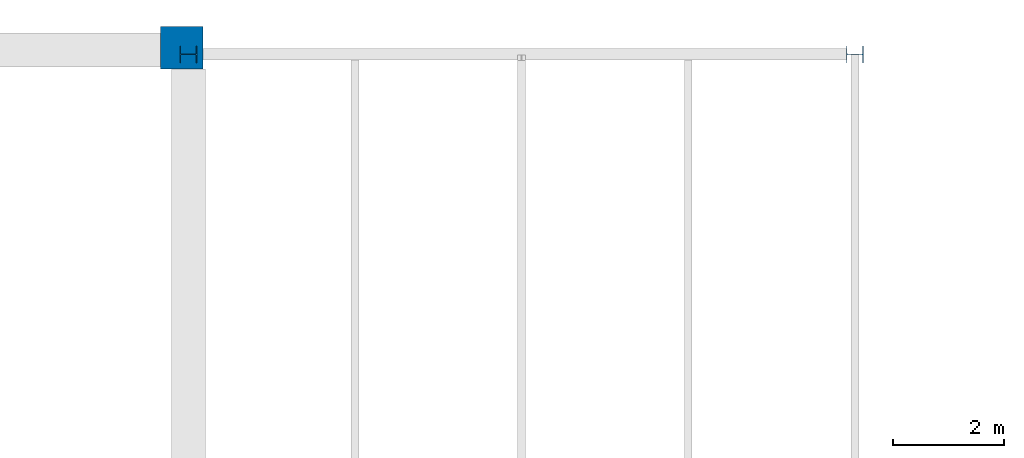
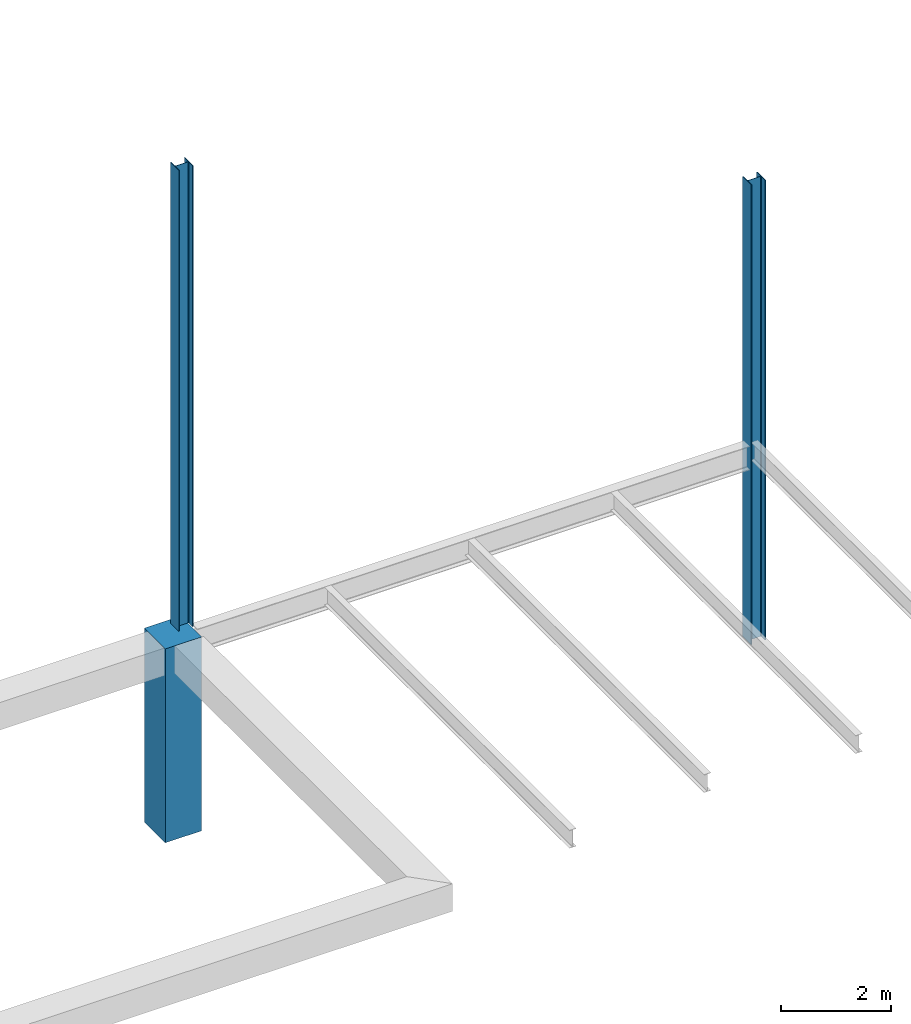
# One storey, part 8 of 19: 3 columns.
"""IFC2X3 building model written with IfcOpenShell, lengths in millimetres."""

from ifc_helpers import new_model, si_unit, origin, place, context, project, spatial, faceted_brep, material, element, save


model = new_model("IFC2X3")

# Units and contexts
context_of_model = context(None, 3, precision=1e-05, world=origin())
ifc_project = project(units=[si_unit("LENGTHUNIT", "METRE", prefix="MILLI")], contexts=[context_of_model])

# Building, storey
building = spatial("IfcBuilding", under=ifc_project, Name="Building", CompositionType="ELEMENT")
storey = spatial("IfcBuildingStorey", under=building, Name="FL2-FRM", CompositionType="ELEMENT")

# Columns
ifc_material_1 = material(Name="C5000")
column_1_placement = place(None, origin())
element("IfcColumn", 1, at=column_1_placement, inside=storey, material=ifc_material_1, Name="Column175", context=context_of_model, shape_type="Brep", body=[
    faceted_brep([(262.0, 35738.0, 0.0), (262.0, 36500.0, 0.0), (262.0, 36500.0, 4296.8), (262.0, 35738.0, 4296.8), (-500.0, 36500.0, 0.0), (-500.0, 36500.0, 4296.8), (-500.0, 35738.0, 0.0), (-500.0, 35738.0, 4296.8)], [[[0, 1, 2, 3]], [[1, 4, 5, 2]], [[4, 6, 7, 5]], [[6, 0, 3, 7]], [[0, 6, 4, 1]], [[3, 2, 5, 7]]]),
])
ifc_material_2 = material(Name="A992")
column_2_placement = place(None, origin())
element("IfcColumn", 2, at=column_2_placement, inside=storey, material=ifc_material_2, Name="Column571", context=context_of_model, shape_type="Brep", body=[
    faceted_brep([(154.0, 35847.5, 4500.0), (154.0, 36152.5, 4500.0), (154.0, 36152.5, 14719.2), (154.0, 35847.5, 14719.2), (138.6, 36152.5, 4500.0), (138.6, 36152.5, 14719.2), (138.6, 36020.1, 4500.0), (138.6, 36020.1, 14719.2), (138.082, 36016.2, 4500.0), (138.082, 36016.2, 14719.2), (136.564, 36012.5, 4500.0), (136.564, 36012.5, 14719.2), (134.148, 36009.4, 4500.0), (134.148, 36009.4, 14719.2), (131.0, 36007.0, 4500.0), (131.0, 36007.0, 14719.2), (127.334, 36005.5, 4500.0), (127.334, 36005.5, 14719.2), (123.4, 36004.9, 4500.0), (123.4, 36004.9, 14719.2), (-123.4, 36004.9, 4500.0), (-123.4, 36004.9, 14719.2), (-127.334, 36005.5, 4500.0), (-127.334, 36005.5, 14719.2), (-131.0, 36007.0, 4500.0), (-131.0, 36007.0, 14719.2), (-134.148, 36009.4, 4500.0), (-134.148, 36009.4, 14719.2), (-136.564, 36012.5, 4500.0), (-136.564, 36012.5, 14719.2), (-138.082, 36016.2, 4500.0), (-138.082, 36016.2, 14719.2), (-138.6, 36020.1, 4500.0), (-138.6, 36020.1, 14719.2), (-138.6, 36152.5, 4500.0), (-138.6, 36152.5, 14719.2), (-154.0, 36152.5, 4500.0), (-154.0, 36152.5, 14719.2), (-154.0, 35847.5, 4500.0), (-154.0, 35847.5, 14719.2), (-138.6, 35847.5, 4500.0), (-138.6, 35847.5, 14719.2), (-138.6, 35979.9, 4500.0), (-138.6, 35979.9, 14719.2), (-138.082, 35983.8, 4500.0), (-138.082, 35983.8, 14719.2), (-136.564, 35987.5, 4500.0), (-136.564, 35987.5, 14719.2), (-134.148, 35990.6, 4500.0), (-134.148, 35990.6, 14719.2), (-131.0, 35993.0, 4500.0), (-131.0, 35993.0, 14719.2), (-127.334, 35994.5, 4500.0), (-127.334, 35994.5, 14719.2), (-123.4, 35995.1, 4500.0), (-123.4, 35995.1, 14719.2), (123.4, 35995.1, 4500.0), (123.4, 35995.1, 14719.2), (127.334, 35994.5, 4500.0), (127.334, 35994.5, 14719.2), (131.0, 35993.0, 4500.0), (131.0, 35993.0, 14719.2), (134.148, 35990.6, 4500.0), (134.148, 35990.6, 14719.2), (136.564, 35987.5, 4500.0), (136.564, 35987.5, 14719.2), (138.082, 35983.8, 4500.0), (138.082, 35983.8, 14719.2), (138.6, 35979.9, 4500.0), (138.6, 35979.9, 14719.2), (138.6, 35847.5, 4500.0), (138.6, 35847.5, 14719.2)], [[[0, 1, 2, 3]], [[1, 4, 5, 2]], [[4, 6, 7, 5]], [[6, 8, 9, 7]], [[8, 10, 11, 9]], [[10, 12, 13, 11]], [[12, 14, 15, 13]], [[14, 16, 17, 15]], [[16, 18, 19, 17]], [[18, 20, 21, 19]], [[20, 22, 23, 21]], [[22, 24, 25, 23]], [[24, 26, 27, 25]], [[26, 28, 29, 27]], [[28, 30, 31, 29]], [[30, 32, 33, 31]], [[32, 34, 35, 33]], [[34, 36, 37, 35]], [[36, 38, 39, 37]], [[38, 40, 41, 39]], [[40, 42, 43, 41]], [[42, 44, 45, 43]], [[44, 46, 47, 45]], [[46, 48, 49, 47]], [[48, 50, 51, 49]], [[50, 52, 53, 51]], [[52, 54, 55, 53]], [[54, 56, 57, 55]], [[56, 58, 59, 57]], [[58, 60, 61, 59]], [[60, 62, 63, 61]], [[62, 64, 65, 63]], [[64, 66, 67, 65]], [[66, 68, 69, 67]], [[68, 70, 71, 69]], [[70, 0, 3, 71]], [[0, 70, 68, 66, 64, 62, 60, 58, 56, 54, 52, 50, 48, 46, 44, 42, 40, 38, 36, 34, 32, 30, 28, 26, 24, 22, 20, 18, 16, 14, 12, 10, 8, 6, 4, 1]], [[3, 2, 5, 7, 9, 11, 13, 15, 17, 19, 21, 23, 25, 27, 29, 31, 33, 35, 37, 39, 41, 43, 45, 47, 49, 51, 53, 55, 57, 59, 61, 63, 65, 67, 69, 71]]]),
])
ifc_material_3 = material(Name="A992")
column_3_placement = place(None, origin())
element("IfcColumn", 3, at=column_3_placement, inside=storey, material=ifc_material_3, Name="Column654", context=context_of_model, shape_type="Brep", body=[
    faceted_brep([(12154.0, 35847.5, 0.0), (12154.0, 36152.5, 0.0), (12154.0, 36152.5, 10194.2), (12154.0, 35847.5, 10194.2), (12138.6, 36152.5, 0.0), (12138.6, 36152.5, 10194.2), (12138.6, 36020.1, 0.0), (12138.6, 36020.1, 10194.2), (12138.1, 36016.2, 0.0), (12138.1, 36016.2, 10194.2), (12136.6, 36012.5, 0.0), (12136.6, 36012.5, 10194.2), (12134.1, 36009.4, 0.0), (12134.1, 36009.4, 10194.2), (12131.0, 36007.0, 0.0), (12131.0, 36007.0, 10194.2), (12127.3, 36005.5, 0.0), (12127.3, 36005.5, 10194.2), (12123.4, 36004.9, 0.0), (12123.4, 36004.9, 10194.2), (11876.6, 36004.9, 0.0), (11876.6, 36004.9, 10194.2), (11872.7, 36005.5, 0.0), (11872.7, 36005.5, 10194.2), (11869.0, 36007.0, 0.0), (11869.0, 36007.0, 10194.2), (11865.9, 36009.4, 0.0), (11865.9, 36009.4, 10194.2), (11863.4, 36012.5, 0.0), (11863.4, 36012.5, 10194.2), (11861.9, 36016.2, 0.0), (11861.9, 36016.2, 10194.2), (11861.4, 36020.1, 0.0), (11861.4, 36020.1, 10194.2), (11861.4, 36152.5, 0.0), (11861.4, 36152.5, 10194.2), (11846.0, 36152.5, 0.0), (11846.0, 36152.5, 10194.2), (11846.0, 35847.5, 0.0), (11846.0, 35847.5, 10194.2), (11861.4, 35847.5, 0.0), (11861.4, 35847.5, 10194.2), (11861.4, 35979.9, 0.0), (11861.4, 35979.9, 10194.2), (11861.9, 35983.8, 0.0), (11861.9, 35983.8, 10194.2), (11863.4, 35987.5, 0.0), (11863.4, 35987.5, 10194.2), (11865.9, 35990.6, 0.0), (11865.9, 35990.6, 10194.2), (11869.0, 35993.0, 0.0), (11869.0, 35993.0, 10194.2), (11872.7, 35994.5, 0.0), (11872.7, 35994.5, 10194.2), (11876.6, 35995.1, 0.0), (11876.6, 35995.1, 10194.2), (12123.4, 35995.1, 0.0), (12123.4, 35995.1, 10194.2), (12127.3, 35994.5, 0.0), (12127.3, 35994.5, 10194.2), (12131.0, 35993.0, 0.0), (12131.0, 35993.0, 10194.2), (12134.1, 35990.6, 0.0), (12134.1, 35990.6, 10194.2), (12136.6, 35987.5, 0.0), (12136.6, 35987.5, 10194.2), (12138.1, 35983.8, 0.0), (12138.1, 35983.8, 10194.2), (12138.6, 35979.9, 0.0), (12138.6, 35979.9, 10194.2), (12138.6, 35847.5, 0.0), (12138.6, 35847.5, 10194.2)], [[[0, 1, 2, 3]], [[1, 4, 5, 2]], [[4, 6, 7, 5]], [[6, 8, 9, 7]], [[8, 10, 11, 9]], [[10, 12, 13, 11]], [[12, 14, 15, 13]], [[14, 16, 17, 15]], [[16, 18, 19, 17]], [[18, 20, 21, 19]], [[20, 22, 23, 21]], [[22, 24, 25, 23]], [[24, 26, 27, 25]], [[26, 28, 29, 27]], [[28, 30, 31, 29]], [[30, 32, 33, 31]], [[32, 34, 35, 33]], [[34, 36, 37, 35]], [[36, 38, 39, 37]], [[38, 40, 41, 39]], [[40, 42, 43, 41]], [[42, 44, 45, 43]], [[44, 46, 47, 45]], [[46, 48, 49, 47]], [[48, 50, 51, 49]], [[50, 52, 53, 51]], [[52, 54, 55, 53]], [[54, 56, 57, 55]], [[56, 58, 59, 57]], [[58, 60, 61, 59]], [[60, 62, 63, 61]], [[62, 64, 65, 63]], [[64, 66, 67, 65]], [[66, 68, 69, 67]], [[68, 70, 71, 69]], [[70, 0, 3, 71]], [[0, 70, 68, 66, 64, 62, 60, 58, 56, 54, 52, 50, 48, 46, 44, 42, 40, 38, 36, 34, 32, 30, 28, 26, 24, 22, 20, 18, 16, 14, 12, 10, 8, 6, 4, 1]], [[3, 2, 5, 7, 9, 11, 13, 15, 17, 19, 21, 23, 25, 27, 29, 31, 33, 35, 37, 39, 41, 43, 45, 47, 49, 51, 53, 55, 57, 59, 61, 63, 65, 67, 69, 71]]]),
])

save(model, "model.ifc")
